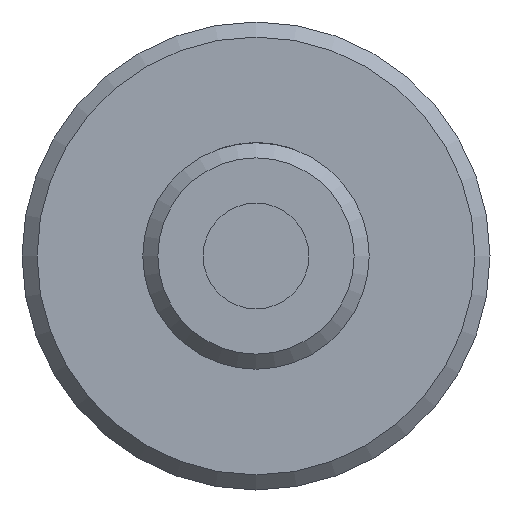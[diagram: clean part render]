
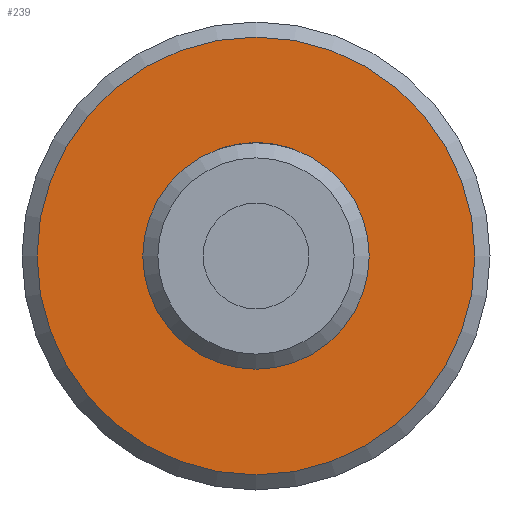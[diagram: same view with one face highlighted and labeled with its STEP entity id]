
A CAD part, front view. The second image highlights one B-rep face of the part: STEP entity #239.
In plain terms, the highlighted planar face has unit normal (0, -1, 0).
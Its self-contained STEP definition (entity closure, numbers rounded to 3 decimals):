
#22=FACE_BOUND('',#69,.T.);
#32=PLANE('',#283);
#47=FACE_OUTER_BOUND('',#68,.T.);
#68=EDGE_LOOP('',(#198));
#69=EDGE_LOOP('',(#199));
#109=CIRCLE('',#282,7.5);
#110=CIRCLE('',#284,14.5);
#128=VERTEX_POINT('',#455);
#129=VERTEX_POINT('',#459);
#152=EDGE_CURVE('',#128,#128,#109,.T.);
#154=EDGE_CURVE('',#129,#129,#110,.T.);
#198=ORIENTED_EDGE('',*,*,#154,.F.);
#199=ORIENTED_EDGE('',*,*,#152,.T.);
#239=ADVANCED_FACE('',(#47,#22),#32,.T.);
#282=AXIS2_PLACEMENT_3D('',#456,#343,#344);
#283=AXIS2_PLACEMENT_3D('',#458,#346,#347);
#284=AXIS2_PLACEMENT_3D('',#460,#348,#349);
#343=DIRECTION('center_axis',(0.,1.,0.));
#344=DIRECTION('ref_axis',(1.,0.,0.));
#346=DIRECTION('center_axis',(0.,-1.,0.));
#347=DIRECTION('ref_axis',(0.,0.,-1.));
#348=DIRECTION('center_axis',(0.,1.,0.));
#349=DIRECTION('ref_axis',(1.,0.,0.));
#455=CARTESIAN_POINT('',(0.,20.,-7.5));
#456=CARTESIAN_POINT('Origin',(0.,20.,0.));
#458=CARTESIAN_POINT('Origin',(0.,20.,14.5));
#459=CARTESIAN_POINT('',(0.,20.,-14.5));
#460=CARTESIAN_POINT('Origin',(0.,20.,0.));
